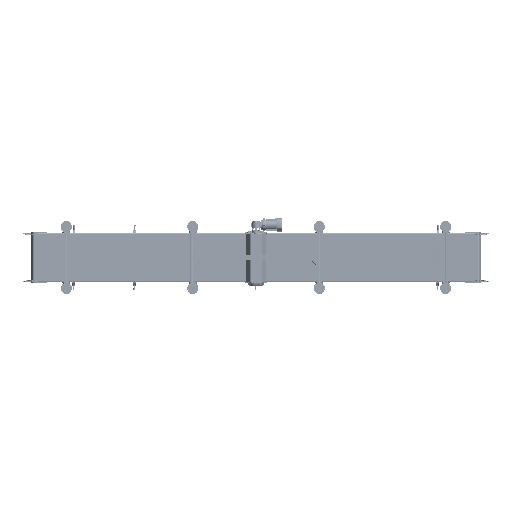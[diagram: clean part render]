
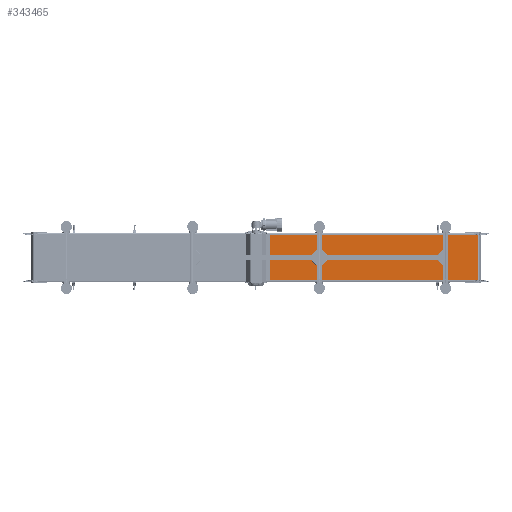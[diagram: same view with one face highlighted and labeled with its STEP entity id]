
A CAD part, front view. The second image highlights one B-rep face of the part: STEP entity #343465.
In plain terms, the highlighted planar face has unit normal (0, -1, 0).
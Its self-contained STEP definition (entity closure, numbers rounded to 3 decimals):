
#11806 = ORIENTED_EDGE ( 'NONE', *, *, #204580, .F. ) ;
#17272 = VERTEX_POINT ( 'NONE', #225247 ) ;
#29366 = DIRECTION ( 'NONE',  ( 0., 0., -1. ) ) ;
#34330 = DIRECTION ( 'NONE',  ( -1., 0., 0. ) ) ;
#38535 = CARTESIAN_POINT ( 'NONE',  ( 1980., -27., -200. ) ) ;
#56254 = FACE_OUTER_BOUND ( 'NONE', #204385, .T. ) ;
#60221 = CARTESIAN_POINT ( 'NONE',  ( 61., -27., 200. ) ) ;
#66871 = LINE ( 'NONE', #124942, #317538 ) ;
#73526 = VECTOR ( 'NONE', #108785, 1000. ) ;
#76924 = VERTEX_POINT ( 'NONE', #38535 ) ;
#104088 = EDGE_CURVE ( 'NONE', #242607, #76924, #66871, .T. ) ;
#108785 = DIRECTION ( 'NONE',  ( 1., 0., 0. ) ) ;
#124942 = CARTESIAN_POINT ( 'NONE',  ( 61., -27., -200. ) ) ;
#135098 = CARTESIAN_POINT ( 'NONE',  ( 61., -27., 200. ) ) ;
#141540 = PLANE ( 'NONE',  #264279 ) ;
#157548 = ORIENTED_EDGE ( 'NONE', *, *, #104088, .T. ) ;
#188225 = EDGE_CURVE ( 'NONE', #290695, #17272, #246808, .T. ) ;
#196018 = DIRECTION ( 'NONE',  ( 0., 1., 0. ) ) ;
#204385 = EDGE_LOOP ( 'NONE', ( #157548, #11806, #205785, #322988 ) ) ;
#204580 = EDGE_CURVE ( 'NONE', #17272, #76924, #286432, .T. ) ;
#204856 = DIRECTION ( 'NONE',  ( 1., 0., 0. ) ) ;
#205785 = ORIENTED_EDGE ( 'NONE', *, *, #188225, .F. ) ;
#225247 = CARTESIAN_POINT ( 'NONE',  ( 1980., -27., 200. ) ) ;
#242607 = VERTEX_POINT ( 'NONE', #305986 ) ;
#246808 = LINE ( 'NONE', #274029, #73526 ) ;
#249142 = LINE ( 'NONE', #60221, #254742 ) ;
#249869 = VECTOR ( 'NONE', #346271, 1000. ) ;
#254742 = VECTOR ( 'NONE', #29366, 1000. ) ;
#264279 = AXIS2_PLACEMENT_3D ( 'NONE', #277737, #196018, #34330 ) ;
#274029 = CARTESIAN_POINT ( 'NONE',  ( 61., -27., 200. ) ) ;
#277737 = CARTESIAN_POINT ( 'NONE',  ( 61., -27., 200. ) ) ;
#286432 = LINE ( 'NONE', #342656, #249869 ) ;
#290695 = VERTEX_POINT ( 'NONE', #135098 ) ;
#299855 = EDGE_CURVE ( 'NONE', #290695, #242607, #249142, .T. ) ;
#305986 = CARTESIAN_POINT ( 'NONE',  ( 61., -27., -200. ) ) ;
#317538 = VECTOR ( 'NONE', #204856, 1000. ) ;
#322988 = ORIENTED_EDGE ( 'NONE', *, *, #299855, .T. ) ;
#342656 = CARTESIAN_POINT ( 'NONE',  ( 1980., -27., 200. ) ) ;
#343465 = ADVANCED_FACE ( 'NONE', ( #56254 ), #141540, .F. ) ;
#346271 = DIRECTION ( 'NONE',  ( 0., 0., -1. ) ) ;
